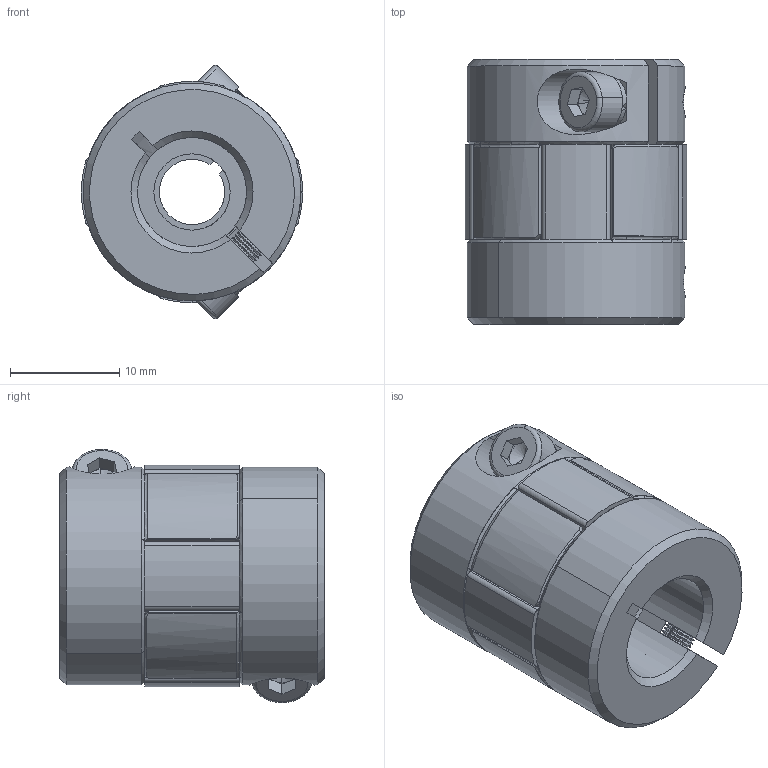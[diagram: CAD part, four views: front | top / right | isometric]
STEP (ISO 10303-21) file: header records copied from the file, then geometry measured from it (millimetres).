
FILE_DESCRIPTION (( 'STEP AP203' ), '1' );
FILE_NAME ('LF-B-D20L25-6-10.STEP', '2021-10-21T01:31:25', ( '' ), ( '' ), 'SwSTEP 2.0', 'SolidWorks 2018', '' );
FILE_SCHEMA (( 'CONFIG_CONTROL_DESIGN' ));
Length unit declared in the file: millimetre
Products named in the file (1): LF-B-D20L25-6-10
Bounding box: 20.31 x 24.3 x 23.23 mm (x, y, z)
Volume: 6232.4 mm3; surface area: 3599.9 mm2
Topology: 1 solids, 1 shells, 431 faces, 1082 edges, 642 vertices
Faces by surface type: cylinder 167, cone 158, plane 94, torus 12
Entity records: 13230 total; most frequent: CARTESIAN_POINT 2754, DIRECTION 2333, ORIENTED_EDGE 2156, EDGE_CURVE 1078, AXIS2_PLACEMENT_3D 959, VERTEX_POINT 642, CIRCLE 527, EDGE_LOOP 446
